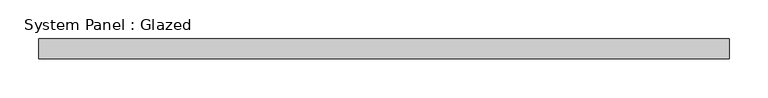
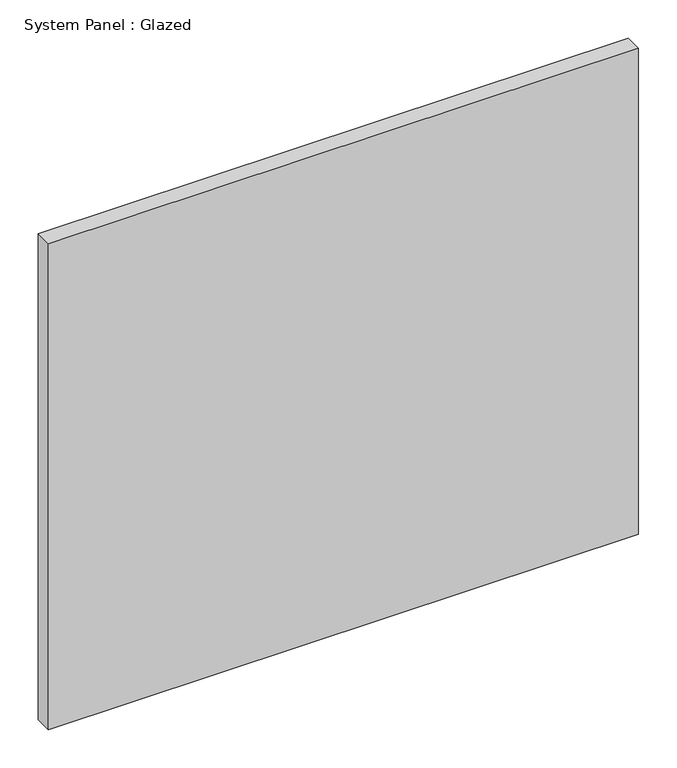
"""IFC4 building model written with IfcOpenShell, lengths in millimetres: plate geometry, System Panel : Glazed."""

from ifc_helpers import new_model, si_unit, origin, origin_with_axes, place, context, project, spatial, polyline, outline, extrude, source, transform, mapped, element, save


def system_panel_glazed_c55544b5(model_context):
    return source(origin(), model_context, "Body", "SweptSolid", [
        extrude(outline(polyline([(442.3919032, -44.45), (-442.3919032, -44.45), (-442.3919032, -19.05), (442.3919032, -19.05), (442.3919032, -44.45)])), origin_with_axes(), (0.0, 0.0, 1.0), 770.6690025),
    ])


if __name__ == "__main__":
    model = new_model("IFC4")
    model_context = context("Model", 3, world=origin())
    ifc_project = project(units=[si_unit("LENGTHUNIT", "METRE", prefix="MILLI")], contexts=[model_context])
    site = spatial("IfcSite", under=ifc_project)
    building = spatial("IfcBuilding", under=site)
    placement = place(None, origin())
    system_panel_glazed_shape = system_panel_glazed_c55544b5(model_context)
    element("IfcPlate", 1, ObjectType="System Panel : Glazed", at=placement, inside=building, context=model_context, shape_type="MappedRepresentation", body=[
        mapped(system_panel_glazed_shape, transform((0.0, 0.0, 0.0), x_axis=(1.0, 0.0, 0.0), y_axis=(0.0, 1.0, 0.0), z_axis=(0.0, 0.0, 1.0))),
    ])
    save(model, "model.ifc")
